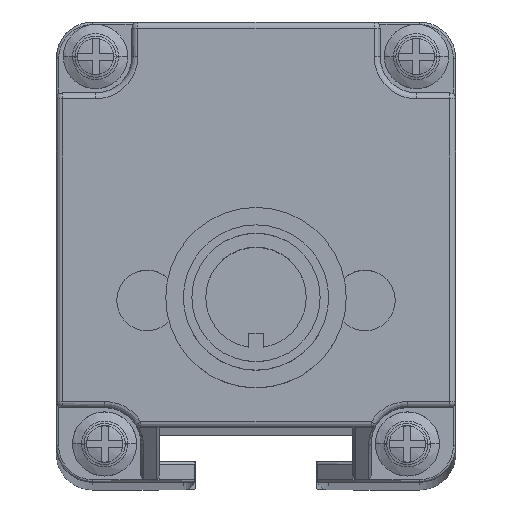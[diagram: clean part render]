
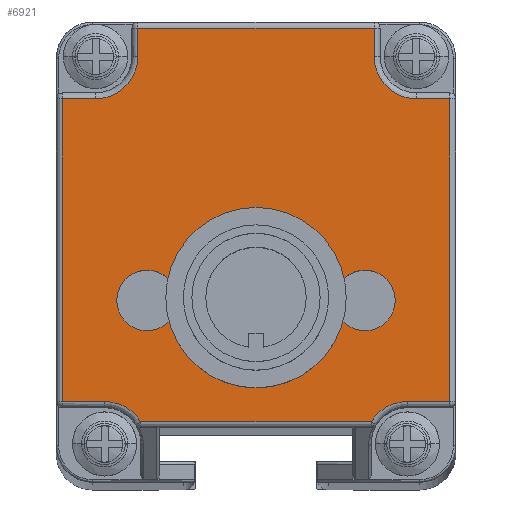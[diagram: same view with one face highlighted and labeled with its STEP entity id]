
A CAD part, top view. The second image highlights one B-rep face of the part: STEP entity #6921.
In plain terms, the highlighted planar face has unit normal (0, 0, 1).
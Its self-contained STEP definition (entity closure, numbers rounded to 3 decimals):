
#2787=CARTESIAN_POINT('',(-11.85,-19.904,
245.276));
#2788=DIRECTION('',(0.,0.,1.));
#2789=DIRECTION('',(0.849,0.528,0.));
#2790=AXIS2_PLACEMENT_3D('',#2787,#2788,#2789);
#2792=CARTESIAN_POINT('',(-12.6,12.094,245.276));
#2793=DIRECTION('',(0.,0.,1.));
#2794=DIRECTION('',(0.,-1.,0.));
#2795=AXIS2_PLACEMENT_3D('',#2792,#2793,#2794);
#2797=CARTESIAN_POINT('',(13.9,12.094,245.276));
#2798=DIRECTION('',(0.,0.,1.));
#2799=DIRECTION('',(-1.,0.,0.));
#2800=AXIS2_PLACEMENT_3D('',#2797,#2798,#2799);
#2802=CARTESIAN_POINT('',(13.15,-19.904,245.276));
#2803=DIRECTION('',(0.,0.,1.));
#2804=DIRECTION('',(0.,1.,0.));
#2805=AXIS2_PLACEMENT_3D('',#2802,#2803,#2804);
#2807=CARTESIAN_POINT('',(9.65,-8.055,245.276));
#2808=DIRECTION('',(0.,0.,1.));
#2809=DIRECTION('',(1.,-0.007,0.));
#2810=AXIS2_PLACEMENT_3D('',#2807,#2808,#2809);
#2812=CARTESIAN_POINT('',(9.65,-8.055,245.276));
#2813=DIRECTION('',(0.,0.,1.));
#2814=DIRECTION('',(-1.,0.007,0.));
#2815=AXIS2_PLACEMENT_3D('',#2812,#2813,#2814);
#2817=CARTESIAN_POINT('',(-8.35,-8.054,
245.276));
#2818=DIRECTION('',(0.,0.,1.));
#2819=DIRECTION('',(1.,0.007,0.));
#2820=AXIS2_PLACEMENT_3D('',#2817,#2818,#2819);
#2822=CARTESIAN_POINT('',(-8.35,-8.054,
245.276));
#2823=DIRECTION('',(0.,0.,1.));
#2824=DIRECTION('',(-1.,-0.007,0.));
#2825=AXIS2_PLACEMENT_3D('',#2822,#2823,#2824);
#2827=CARTESIAN_POINT('',(0.65,-8.054,
245.276));
#2828=DIRECTION('',(0.,0.,1.));
#2829=DIRECTION('',(1.,0.,0.));
#2830=AXIS2_PLACEMENT_3D('',#2827,#2828,#2829);
#2832=CARTESIAN_POINT('',(0.65,-8.054,
245.276));
#2833=DIRECTION('',(0.,0.,1.));
#2834=DIRECTION('',(-1.,0.,0.));
#2835=AXIS2_PLACEMENT_3D('',#2832,#2833,#2834);
#3016=DIRECTION('',(1.,0.,0.));
#3017=VECTOR('',#3016,19.056);
#3018=CARTESIAN_POINT('',(-8.878,-18.056,
245.276));
#3019=LINE('',#3018,#3017);
#3600=DIRECTION('',(0.,1.,0.));
#3601=VECTOR('',#3600,2.35);
#3602=CARTESIAN_POINT('',(10.4,12.094,245.276));
#3603=LINE('',#3602,#3601);
#3623=DIRECTION('',(-1.,0.,0.));
#3624=VECTOR('',#3623,19.5);
#3625=CARTESIAN_POINT('',(10.4,14.444,245.276));
#3626=LINE('',#3625,#3624);
#3647=DIRECTION('',(0.,-1.,0.));
#3648=VECTOR('',#3647,2.35);
#3649=CARTESIAN_POINT('',(-9.1,14.444,245.276));
#3650=LINE('',#3649,#3648);
#3674=DIRECTION('',(-1.,0.,0.));
#3675=VECTOR('',#3674,2.75);
#3676=CARTESIAN_POINT('',(-12.6,8.594,245.276));
#3677=LINE('',#3676,#3675);
#3845=DIRECTION('',(0.,-1.,0.));
#3846=VECTOR('',#3845,24.998);
#3847=CARTESIAN_POINT('',(-15.35,8.594,245.276));
#3848=LINE('',#3847,#3846);
#3884=DIRECTION('',(1.,0.,0.));
#3885=VECTOR('',#3884,3.5);
#3886=CARTESIAN_POINT('',(-15.35,-16.404,
245.276));
#3887=LINE('',#3886,#3885);
#4155=DIRECTION('',(-1.,0.,0.));
#4156=VECTOR('',#4155,2.75);
#4157=CARTESIAN_POINT('',(16.65,8.594,245.276));
#4158=LINE('',#4157,#4156);
#4214=DIRECTION('',(0.,1.,0.));
#4215=VECTOR('',#4214,24.998);
#4216=CARTESIAN_POINT('',(16.65,-16.404,245.276));
#4217=LINE('',#4216,#4215);
#4237=DIRECTION('',(1.,0.,0.));
#4238=VECTOR('',#4237,3.5);
#4239=CARTESIAN_POINT('',(13.15,-16.404,245.276));
#4240=LINE('',#4239,#4238);
#5982=CARTESIAN_POINT('',(12.15,-8.072,245.276));
#5983=VERTEX_POINT('',#5982);
#5984=CARTESIAN_POINT('',(7.15,-8.039,245.276));
#5985=VERTEX_POINT('',#5984);
#5986=CARTESIAN_POINT('',(-8.878,-18.056,
245.276));
#5987=CARTESIAN_POINT('',(-11.85,-16.404,
245.276));
#5988=VERTEX_POINT('',#5986);
#5989=VERTEX_POINT('',#5987);
#5990=CARTESIAN_POINT('',(-15.35,-16.404,
245.276));
#5991=VERTEX_POINT('',#5990);
#5992=CARTESIAN_POINT('',(-15.35,8.594,245.276));
#5993=VERTEX_POINT('',#5992);
#5994=CARTESIAN_POINT('',(-12.6,8.594,245.276));
#5995=VERTEX_POINT('',#5994);
#5996=CARTESIAN_POINT('',(-9.1,12.094,245.276));
#5997=VERTEX_POINT('',#5996);
#5998=CARTESIAN_POINT('',(-9.1,14.444,245.276));
#5999=VERTEX_POINT('',#5998);
#6000=CARTESIAN_POINT('',(10.4,14.444,245.276));
#6001=VERTEX_POINT('',#6000);
#6002=CARTESIAN_POINT('',(10.4,12.094,245.276));
#6003=VERTEX_POINT('',#6002);
#6004=CARTESIAN_POINT('',(13.9,8.594,245.276));
#6005=VERTEX_POINT('',#6004);
#6006=CARTESIAN_POINT('',(16.65,8.594,245.276));
#6007=VERTEX_POINT('',#6006);
#6008=CARTESIAN_POINT('',(16.65,-16.404,245.276));
#6009=VERTEX_POINT('',#6008);
#6010=CARTESIAN_POINT('',(13.15,-16.404,245.276));
#6011=VERTEX_POINT('',#6010);
#6012=CARTESIAN_POINT('',(10.178,-18.056,245.276));
#6013=VERTEX_POINT('',#6012);
#6014=CARTESIAN_POINT('',(-5.85,-8.037,
245.276));
#6015=CARTESIAN_POINT('',(-10.85,-8.07,
245.276));
#6016=VERTEX_POINT('',#6014);
#6017=VERTEX_POINT('',#6015);
#6018=CARTESIAN_POINT('',(3.65,-8.054,245.276));
#6019=CARTESIAN_POINT('',(-2.35,-8.054,
245.276));
#6020=VERTEX_POINT('',#6018);
#6021=VERTEX_POINT('',#6019);
#6870=CARTESIAN_POINT('',(0.65,0.944,
245.276));
#6871=DIRECTION('',(0.,0.,1.));
#6872=DIRECTION('',(1.,0.,0.));
#6873=AXIS2_PLACEMENT_3D('',#6870,#6871,#6872);
#6874=PLANE('',#6873);
#6876=ORIENTED_EDGE('',*,*,#6875,.T.);
#6878=ORIENTED_EDGE('',*,*,#6877,.F.);
#6880=ORIENTED_EDGE('',*,*,#6879,.F.);
#6882=ORIENTED_EDGE('',*,*,#6881,.F.);
#6884=ORIENTED_EDGE('',*,*,#6883,.T.);
#6886=ORIENTED_EDGE('',*,*,#6885,.F.);
#6888=ORIENTED_EDGE('',*,*,#6887,.F.);
#6890=ORIENTED_EDGE('',*,*,#6889,.F.);
#6892=ORIENTED_EDGE('',*,*,#6891,.T.);
#6894=ORIENTED_EDGE('',*,*,#6893,.F.);
#6896=ORIENTED_EDGE('',*,*,#6895,.F.);
#6898=ORIENTED_EDGE('',*,*,#6897,.F.);
#6900=ORIENTED_EDGE('',*,*,#6899,.T.);
#6902=ORIENTED_EDGE('',*,*,#6901,.F.);
#6903=EDGE_LOOP('',(#6876,#6878,#6880,#6882,#6884,#6886,#6888,#6890,#6892,#6894,
#6896,#6898,#6900,#6902));
#6904=FACE_OUTER_BOUND('',#6903,.F.);
#6905=ORIENTED_EDGE('',*,*,#6857,.T.);
#6906=ORIENTED_EDGE('',*,*,#6818,.T.);
#6907=EDGE_LOOP('',(#6905,#6906));
#6908=FACE_BOUND('',#6907,.F.);
#6910=ORIENTED_EDGE('',*,*,#6909,.T.);
#6912=ORIENTED_EDGE('',*,*,#6911,.T.);
#6913=EDGE_LOOP('',(#6910,#6912));
#6914=FACE_BOUND('',#6913,.F.);
#6916=ORIENTED_EDGE('',*,*,#6915,.T.);
#6918=ORIENTED_EDGE('',*,*,#6917,.T.);
#6919=EDGE_LOOP('',(#6916,#6918));
#6920=FACE_BOUND('',#6919,.F.);
#2791=CIRCLE('',#2790,3.5);
#2796=CIRCLE('',#2795,3.5);
#2801=CIRCLE('',#2800,3.5);
#2806=CIRCLE('',#2805,3.5);
#2811=CIRCLE('',#2810,2.5);
#2816=CIRCLE('',#2815,2.5);
#2821=CIRCLE('',#2820,2.5);
#2826=CIRCLE('',#2825,2.5);
#2831=CIRCLE('',#2830,3.);
#2836=CIRCLE('',#2835,3.);
#6818=EDGE_CURVE('',#5985,#5983,#2816,.T.);
#6857=EDGE_CURVE('',#5983,#5985,#2811,.T.);
#6875=EDGE_CURVE('',#5988,#5989,#2791,.T.);
#6877=EDGE_CURVE('',#5991,#5989,#3887,.T.);
#6879=EDGE_CURVE('',#5993,#5991,#3848,.T.);
#6881=EDGE_CURVE('',#5995,#5993,#3677,.T.);
#6883=EDGE_CURVE('',#5995,#5997,#2796,.T.);
#6885=EDGE_CURVE('',#5999,#5997,#3650,.T.);
#6887=EDGE_CURVE('',#6001,#5999,#3626,.T.);
#6889=EDGE_CURVE('',#6003,#6001,#3603,.T.);
#6891=EDGE_CURVE('',#6003,#6005,#2801,.T.);
#6893=EDGE_CURVE('',#6007,#6005,#4158,.T.);
#6895=EDGE_CURVE('',#6009,#6007,#4217,.T.);
#6897=EDGE_CURVE('',#6011,#6009,#4240,.T.);
#6899=EDGE_CURVE('',#6011,#6013,#2806,.T.);
#6901=EDGE_CURVE('',#5988,#6013,#3019,.T.);
#6909=EDGE_CURVE('',#6016,#6017,#2821,.T.);
#6911=EDGE_CURVE('',#6017,#6016,#2826,.T.);
#6915=EDGE_CURVE('',#6020,#6021,#2831,.T.);
#6917=EDGE_CURVE('',#6021,#6020,#2836,.T.);
#6921=ADVANCED_FACE('',(#6904,#6908,#6914,#6920),#6874,.T.);
